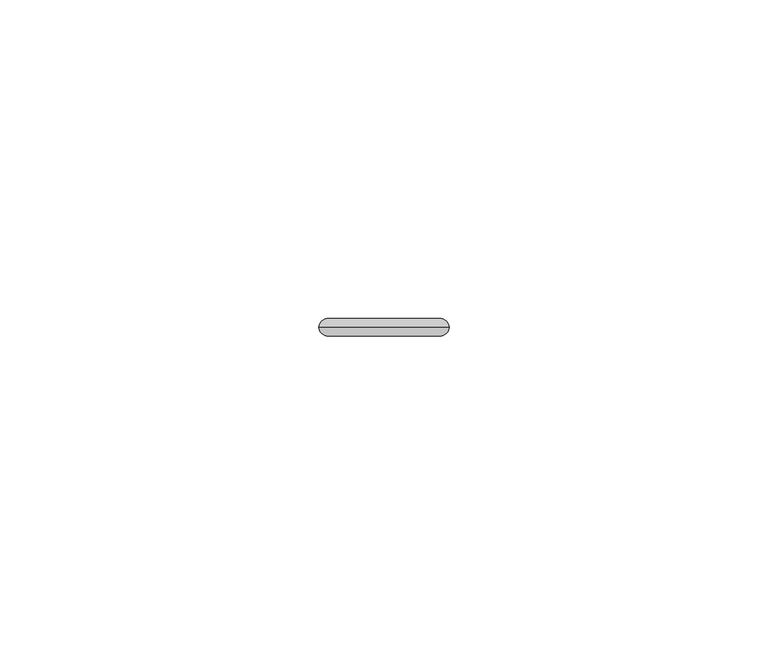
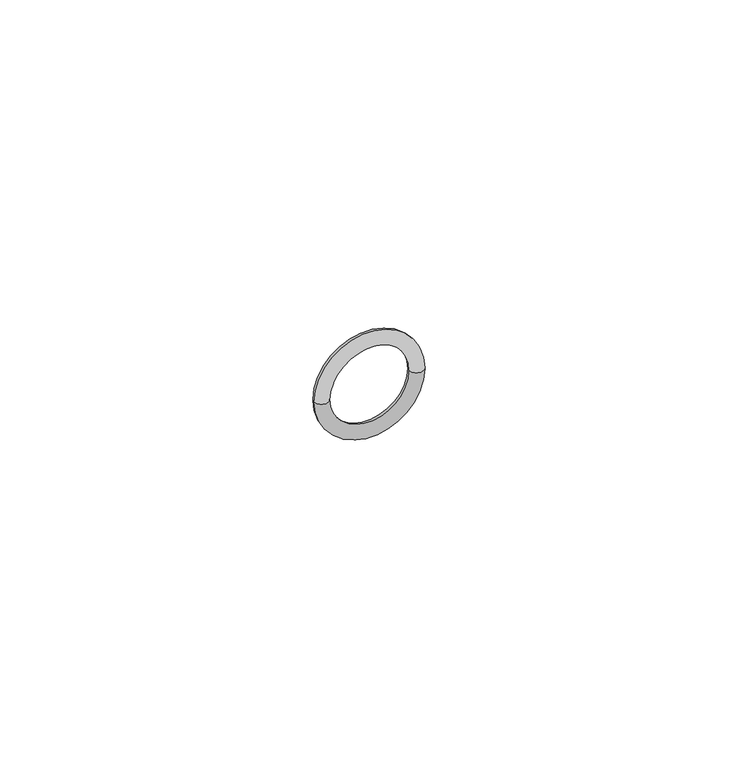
"""IFC4 building model written with IfcOpenShell, lengths in millimetres: pipe fitting geometry, VALTEC_VTi.990.I_Уплотнительное кольцо из FPM : VTi.990.I."""

import ifcopenshell
import ifcopenshell.guid

model = None  # the IFC model being written
_history = None  # IfcOwnerHistory: only IFC2X3 demands one
_inside = {}  # id of a spatial element -> (the spatial element, [elements in it])
_under = {}  # id of a project, library or spatial element -> (it, [spatial elements below it])
_declared = {}  # id of a project -> (the project, [libraries it declares])
_typed = {}  # id of a type object -> (the type object, [elements of that type])
_made_of = {}  # id of a material, layer set ... -> (it, [elements and type objects made of it])


def new_model(schema):
    """Start an empty IFC model of exactly this schema.

    Asked for "IFC4X3", IfcOpenShell would pick the latest addendum, in which some entities
    have other attributes; the version numbers below select the first issue.
    IFC2X3 requires an IfcOwnerHistory on every rooted entity: one is made here for all.
    """
    global model, _history
    if schema == "IFC4X3":
        model = ifcopenshell.file(schema_version=(4, 3, 0, 0))
    else:
        model = ifcopenshell.file(schema=schema)
    _inside.clear()
    _under.clear()
    _declared.clear()
    _typed.clear()
    _made_of.clear()
    _history = None
    if model.schema == "IFC2X3":
        org = make("IfcOrganization", Name="unknown")
        user = make(
            "IfcPersonAndOrganization",
            ThePerson=make("IfcPerson", FamilyName="unknown"),
            TheOrganization=org,
        )
        app = make(
            "IfcApplication",
            ApplicationDeveloper=org,
            Version="unknown",
            ApplicationFullName="unknown",
            ApplicationIdentifier="unknown",
        )
        _history = make(
            "IfcOwnerHistory",
            OwningUser=user,
            OwningApplication=app,
            ChangeAction="ADDED",
            CreationDate=0,
        )
    return model


def make(cls, **values):
    """One entity of the class cls with the attributes given. An attribute that is None is left unset."""
    return model.create_entity(
        cls, **{name: value for name, value in values.items() if value is not None}
    )


def rooted(cls, **values):
    """An entity with a GlobalId (a new one), such as an element, a storey or a relation."""
    return make(cls, GlobalId=ifcopenshell.guid.new(), OwnerHistory=_history, **values)


def si_unit(unit_type, name, prefix=None):
    """IfcSIUnit, for example si_unit("LENGTHUNIT", "METRE", prefix="MILLI")."""
    return make("IfcSIUnit", UnitType=unit_type, Prefix=prefix, Name=name)


def assignment(units):
    """IfcUnitAssignment: the units of a project."""
    return None if units is None else make("IfcUnitAssignment", Units=units)


def point(xyz):
    """IfcCartesianPoint."""
    return None if xyz is None else make("IfcCartesianPoint", Coordinates=xyz)


def direction(xyz):
    """IfcDirection."""
    return None if xyz is None else make("IfcDirection", DirectionRatios=xyz)


def frame(location, z_axis=None, x_axis=None):
    """IfcAxis2Placement3D, a coordinate frame: its origin and axes. An axis left out is left unset."""
    return make(
        "IfcAxis2Placement3D",
        Location=point(location),
        Axis=direction(z_axis),
        RefDirection=direction(x_axis),
    )


def origin():
    """The frame at (0, 0, 0) with its axes left unset."""
    return frame((0.0, 0.0, 0.0))


def place(relative_to, where):
    """IfcLocalPlacement: puts the frame where relative to a parent placement (None: the world)."""
    return make(
        "IfcLocalPlacement", PlacementRelTo=relative_to, RelativePlacement=where
    )


def context(
    kind, dimensions, precision=None, world=None, true_north=None, identifier=None
):
    """IfcGeometricRepresentationContext, for example the 3D "Model" context."""
    return make(
        "IfcGeometricRepresentationContext",
        ContextIdentifier=identifier,
        ContextType=kind,
        CoordinateSpaceDimension=dimensions,
        Precision=precision,
        WorldCoordinateSystem=world,
        TrueNorth=true_north,
    )


def project(units=None, contexts=None):
    """IfcProject with its units and contexts."""
    return rooted(
        "IfcProject",
        Name="project",
        RepresentationContexts=contexts,
        UnitsInContext=assignment(units),
    )


def spatial(cls, under=None, at=None, **own):
    """A site, building, storey or space (cls), placed at a placement, below another one or the project."""
    s = rooted(cls, ObjectPlacement=at, **own)
    if under is not None:
        _under.setdefault(under.id(), (under, []))[1].append(s)
    return s


def circle_curve(where, radius):
    """IfcCircle in the frame where."""
    return make("IfcCircle", Position=where, Radius=radius)


def ellipse_curve(where, semi_axis1, semi_axis2):
    """IfcEllipse in the frame where."""
    return make(
        "IfcEllipse", Position=where, SemiAxis1=semi_axis1, SemiAxis2=semi_axis2
    )


def trimmed(basis, trim1, trim2, sense, master):
    """IfcTrimmedCurve: the piece of a basis curve between two trims."""
    return make(
        "IfcTrimmedCurve",
        BasisCurve=basis,
        Trim1=trim1,
        Trim2=trim2,
        SenseAgreement=sense,
        MasterRepresentation=master,
    )


def shape(context_of_items, identifier, shape_type, items):
    """IfcShapeRepresentation: the items that make up one representation, for example the "Body"."""
    return make(
        "IfcShapeRepresentation",
        ContextOfItems=context_of_items,
        RepresentationIdentifier=identifier,
        RepresentationType=shape_type,
        Items=items,
    )


def source(mapping_origin, context_of_items, identifier, shape_type, items):
    """IfcRepresentationMap: a shape defined once, which mapped items show again and again."""
    return make(
        "IfcRepresentationMap",
        MappingOrigin=mapping_origin,
        MappedRepresentation=shape(context_of_items, identifier, shape_type, items),
    )


def transform(
    local_origin,
    x_axis=None,
    y_axis=None,
    z_axis=None,
    scale=None,
    scale2=None,
    scale3=None,
    uniform=True,
):
    """IfcCartesianTransformationOperator3D, or its non-uniform kind. x_axis, y_axis, z_axis: its Axis1, 2, 3."""
    if uniform:
        return make(
            "IfcCartesianTransformationOperator3D",
            Axis1=direction(x_axis),
            Axis2=direction(y_axis),
            LocalOrigin=point(local_origin),
            Scale=scale,
            Axis3=direction(z_axis),
        )
    return make(
        "IfcCartesianTransformationOperator3DnonUniform",
        Axis1=direction(x_axis),
        Axis2=direction(y_axis),
        LocalOrigin=point(local_origin),
        Scale=scale,
        Axis3=direction(z_axis),
        Scale2=scale2,
        Scale3=scale3,
    )


def mapped(mapping_source, mapping_target):
    """IfcMappedItem: shows the shape of a source again, moved by a transform."""
    return make(
        "IfcMappedItem", MappingSource=mapping_source, MappingTarget=mapping_target
    )


def made_of(thing, what):
    """Note that an element or type object is made of a material, layer set ...; save() writes the relation."""
    if what is not None:
        _made_of.setdefault(what.id(), (what, []))[1].append(thing)
    return thing


def element(
    cls,
    number,
    at=None,
    inside=None,
    cuts=None,
    type_object=None,
    material=None,
    context=None,
    identifier="Body",
    shape_type=None,
    held_by="IfcProductDefinitionShape",
    body=None,
    shapes=None,
    **own,
):
    """One element of the class cls, such as IfcWall. Its Tag is "e" and its number.

    at: its placement. inside: the storey or other place that contains it. cuts: it is an
    opening in that element (IfcRelVoidsElement). A single representation is given by context,
    identifier, shape_type and body (its items); several are given by shapes. held_by: the class
    of the entity that holds the representations. save() writes the other relations.
    """
    e = rooted(cls, Tag="e%d" % number, ObjectPlacement=at, **own)
    if body is not None:
        shapes = [shape(context, identifier, shape_type, body)]
    if shapes is not None:
        e.Representation = make(held_by, Representations=shapes)
    if inside is not None:
        _inside.setdefault(inside.id(), (inside, []))[1].append(e)
    if cuts is not None:
        rooted(
            "IfcRelVoidsElement", RelatingBuildingElement=cuts, RelatedOpeningElement=e
        )
    if type_object is not None:
        _typed.setdefault(type_object.id(), (type_object, []))[1].append(e)
    return made_of(e, material)


def aggregate(whole, parts):
    """IfcRelAggregates: a whole, such as a stair, and the parts it consists of."""
    return rooted("IfcRelAggregates", RelatingObject=whole, RelatedObjects=parts)


def save(model, path):
    """Write the relations noted so far, then the file.

    IfcRelAggregates (storeys below a building ...), IfcRelContainedInSpatialStructure (elements
    in a storey), IfcRelDefinesByType, IfcRelAssociatesMaterial and IfcRelDeclares: one each for
    every whole, place, type object, material and project.
    """
    for whole, parts in _under.values():
        aggregate(whole, parts)
    for where, things in _inside.values():
        rooted(
            "IfcRelContainedInSpatialStructure",
            RelatedElements=things,
            RelatingStructure=where,
        )
    for kind, things in _typed.values():
        rooted("IfcRelDefinesByType", RelatedObjects=things, RelatingType=kind)
    for what, things in _made_of.values():
        rooted("IfcRelAssociatesMaterial", RelatedObjects=things, RelatingMaterial=what)
    for by, libraries in _declared.values():
        rooted("IfcRelDeclares", RelatingContext=by, RelatedDefinitions=libraries)
    model.write(path)


def revolved_surface(curve, axis_point, axis_direction):
    """IfcSurfaceOfRevolution: the curve turned about the line through axis_point along axis_direction."""
    return make(
        "IfcSurfaceOfRevolution",
        SweptCurve=make("IfcArbitraryOpenProfileDef", ProfileType="CURVE", Curve=curve),
        AxisPosition=make("IfcAxis1Placement", Location=point(axis_point), Axis=direction(axis_direction)),
    )


def advanced_brep(points, edges, surfaces, faces):
    """IfcAdvancedBrep: a solid bounded by faces that lie on surfaces and meet in shared edges.

    An edge is (start, end): straight between two places in points (the first is 0);
    or (start, end, curve); or (start, end, curve, False) where it runs against its curve.
    A face is (place in surfaces, loops), or (place, loops, False) where it looks against
    its surface's normal. A loop lists edges by number (the first is 1), with a minus sign
    where the edge is run from its end to its start. The first loop is the outer one.
    """
    corners = [point(p) for p in points]
    vertices = [make("IfcVertexPoint", VertexGeometry=c) for c in corners]
    made = []
    for start, end, *more in edges:
        made.append(
            make(
                "IfcEdgeCurve",
                EdgeStart=vertices[start],
                EdgeEnd=vertices[end],
                EdgeGeometry=more[0] if more else make("IfcPolyline", Points=[corners[start], corners[end]]),
                SameSense=more[1] if len(more) > 1 else True,
            )
        )
    hull = []
    for where, loops, *sense in faces:
        bounds = []
        for j, loop in enumerate(loops):
            ring = [make("IfcOrientedEdge", EdgeElement=made[abs(k) - 1], Orientation=k > 0) for k in loop]
            bounds.append(
                make(
                    "IfcFaceOuterBound" if j == 0 else "IfcFaceBound",
                    Bound=make("IfcEdgeLoop", EdgeList=ring),
                    Orientation=True,
                )
            )
        hull.append(make("IfcAdvancedFace", Bounds=bounds, FaceSurface=surfaces[where], SameSense=sense[0] if sense else True))
    return make("IfcAdvancedBrep", Outer=make("IfcClosedShell", CfsFaces=hull))


def pipe_fitting_d8f94694(model_context):
    return source(origin(), model_context, "Body", "AdvancedBrep", [
        advanced_brep(
        [(7.5, 0.0, 0.0), (-7.5, 0.0, 0.0), (-10.2, 0.0, 0.0), (10.2, 0.0, 0.0)],
        [
            (0, 1, circle_curve(frame((0.0, 0.0, 0.0), z_axis=(0.0, 1.0, 0.0), x_axis=(-1.0, 0.0, 0.0)), 7.5)),
            (1, 2, circle_curve(frame((-8.85, 0.0, 0.0), z_axis=(0.0, 0.0, -1.0), x_axis=(1.0, 0.0, 0.0)), 1.35)),
            (2, 3, circle_curve(frame((0.0, 0.0, 0.0), z_axis=(0.0, -1.0, 0.0), x_axis=(-1.0, 0.0, 0.0)), 10.2)),
            (3, 0, circle_curve(frame((8.85, 0.0, 0.0), z_axis=(0.0, 0.0, -1.0), x_axis=(-1.0, 0.0, 0.0)), 1.35)),
            (1, 0, circle_curve(frame((0.0, 0.0, 0.0), z_axis=(0.0, 1.0, 0.0), x_axis=(-1.0, 0.0, 0.0)), 7.5)),
            (3, 2, circle_curve(frame((0.0, 0.0, 0.0), z_axis=(0.0, -1.0, 0.0), x_axis=(-1.0, 0.0, 0.0)), 10.2)),
            (2, 1, circle_curve(frame((-8.85, 0.0, 0.0), z_axis=(0.0, 0.0, -1.0), x_axis=(1.0, 0.0, 0.0)), 1.35)),
            (0, 3, circle_curve(frame((8.85, 0.0, 0.0), z_axis=(0.0, 0.0, -1.0), x_axis=(-1.0, 0.0, 0.0)), 1.35)),
        ],
        [
            revolved_surface(trimmed(ellipse_curve(frame((-8.85, 0.0, 0.0), z_axis=(0.0, 0.0, 1.0), x_axis=(1.0, 0.0, 0.0)), 1.35, 1.35), [point((-10.2, 0.0, 0.0))], [point((-7.5, 0.0, 0.0))], True, "CARTESIAN"), (0.0, 1.0336847, 0.0), (0.0, -1.0, 0.0)),
            revolved_surface(trimmed(ellipse_curve(frame((-8.85, 0.0, 0.0), z_axis=(0.0, 0.0, 1.0), x_axis=(1.0, 0.0, 0.0)), 1.35, 1.35), [point((-7.5, 0.0, 0.0))], [point((-10.2, 0.0, 0.0))], True, "CARTESIAN"), (0.0, 1.0336847, 0.0), (0.0, -1.0, 0.0)),
        ],
        [
            (0, [[1, 2, 3, 4]]),
            (0, [[5, -4, 6, -2]]),
            (1, [[-3, 7, -1, 8]]),
            (1, [[-6, -8, -5, -7]]),
        ],
    ),
    ])


if __name__ == "__main__":
    model = new_model("IFC4")
    model_context = context("Model", 3, world=origin())
    ifc_project = project(units=[si_unit("LENGTHUNIT", "METRE", prefix="MILLI")], contexts=[model_context])
    site = spatial("IfcSite", under=ifc_project)
    building = spatial("IfcBuilding", under=site)
    placement = place(None, origin())
    pipe_fitting_shape = pipe_fitting_d8f94694(model_context)
    element("IfcPipeFitting", 1, ObjectType="VALTEC_VTi.990.I_Уплотнительное кольцо из FPM : VTi.990.I", at=placement, inside=building, context=model_context, shape_type="MappedRepresentation", body=[
        mapped(pipe_fitting_shape, transform((0.0, 0.0, 0.0), x_axis=(1.0, 0.0, 0.0), y_axis=(0.0, 1.0, 0.0), z_axis=(0.0, 0.0, 1.0))),
    ])
    save(model, "model.ifc")
